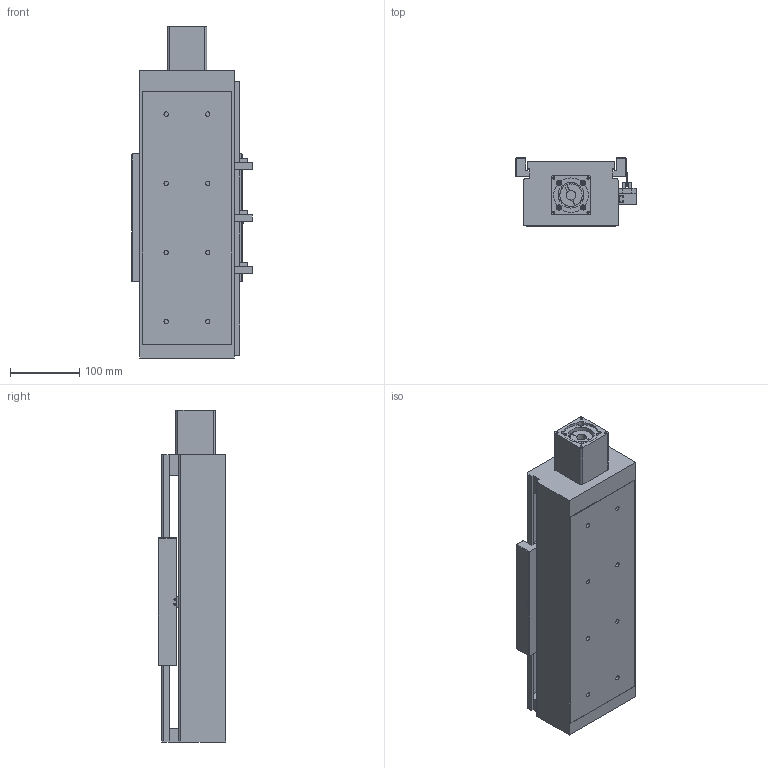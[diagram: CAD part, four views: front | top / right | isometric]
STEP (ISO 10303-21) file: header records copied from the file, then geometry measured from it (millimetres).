
FILE_DESCRIPTION((''),'2;1');
FILE_NAME('E:\libraries\UIA actuator library 2009\standard actuator\UIA136 ball screw 20\UIA136R15NDC stp file 27Apr16\UIA136R15NDC-150-R20_ _-M60-P13-C10-S.stp','2016-04-27T13:16:08',('h029'),(''),'Autodesk Inventor 11','Autodesk Inventor 11','');
FILE_SCHEMA(('AUTOMOTIVE_DESIGN { 1 0 10303 214 1 1 1 1 }'));
Length unit declared in the file: millimetre
Products named in the file (10): UIA136R15NDC-150; UIA136R15NDC-body; motor mount F60; SOH-32C; SOH-32C-3; SOH-32C-1; SOH-32C-2; Carriage; Sensor Switch; sensor rail
Assembly tree (9 placements, depth 3):
  UIA136R15NDC-150
    UIA136R15NDC-body
    motor mount F60
    SOH-32C
      SOH-32C-3
      SOH-32C-1
      SOH-32C-2
    Carriage
    Sensor Switch
    sensor rail
Bounding box: 174.5 x 98 x 480 mm (x, y, z)
Volume: 2316546.6 mm3; surface area: 559688.7 mm2
Topology: 8 solids, 8 shells, 467 faces, 1245 edges, 817 vertices
Faces by surface type: plane 311, bspline 114, cylinder 38, cone 4
Full cylindrical faces by diameter (mm): 2.459 x2, 3.242 x2, 4.5 x2, 5.5 x3, 7.5 x2, 10 x2, 12 x1, 14 x1, 32 x3, 37 x1, 41.9 x1, 42.1 x1, 43.5 x1
Entity records: 15315 total; most frequent: CARTESIAN_POINT 4370, ORIENTED_EDGE 2130, DIRECTION 2066, EDGE_CURVE 1065, VECTOR 790, LINE 790, VERTEX_POINT 752, EDGE_LOOP 673
